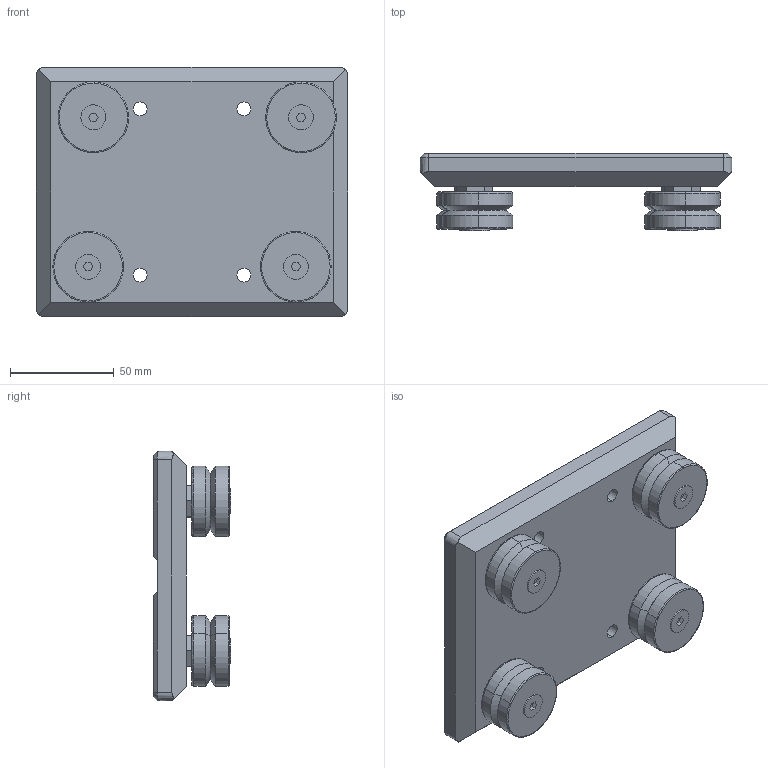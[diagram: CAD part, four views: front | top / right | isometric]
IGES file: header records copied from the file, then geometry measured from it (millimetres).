
Start section: 3D InterOp IGES (Version 21 0 1), Spatial Corp. Copyright (c) 1999-2007.
Global section: file name: RG-150(GF-44N).igs; native system: Spatial Corp.; preprocessor: 3D InterOp GENERIC/IGES 3.0; author: Noname; organization: Noname; date: 20220328.113336; units: millimetre
Bounding box: 150 x 37.3 x 120 mm (x, y, z)
Surface area: 70338.5 mm2 (no closed solid volume)
Topology: 0 solids, 0 shells, 338 faces, 1516 edges, 1508 vertices
Faces by surface type: revolution 192, extrusion 146
